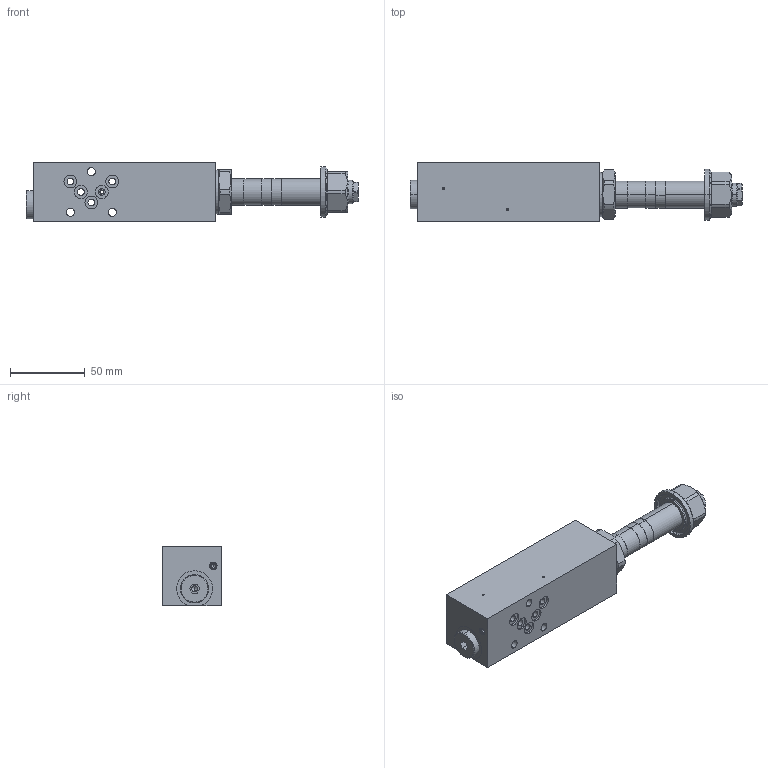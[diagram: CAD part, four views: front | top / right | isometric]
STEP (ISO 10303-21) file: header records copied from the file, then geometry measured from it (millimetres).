
FILE_DESCRIPTION (( 'STEP AP214' ), '1' );
FILE_NAME ('M.BSA04-B.STEP', '2017-03-31T06:16:44', ( '' ), ( '' ), 'SwSTEP 2.0', 'SolidWorks 2016', '' );
FILE_SCHEMA (( 'AUTOMOTIVE_DESIGN' ));
Length unit declared in the file: millimetre
Products named in the file (1): M.BSA04-B
Bounding box: 222 x 39.5 x 40 mm (x, y, z)
Volume: 222793.3 mm3; surface area: 39299.4 mm2
Topology: 4 solids, 7 shells, 374 faces, 911 edges, 570 vertices
Faces by surface type: cylinder 127, plane 126, cone 95, torus 18, sphere 8
Entity records: 15483 total; most frequent: CARTESIAN_POINT 2464, DIRECTION 1957, ORIENTED_EDGE 1790, EDGE_CURVE 895, AXIS2_PLACEMENT_3D 793, VERTEX_POINT 570, EDGE_LOOP 429, CIRCLE 418
